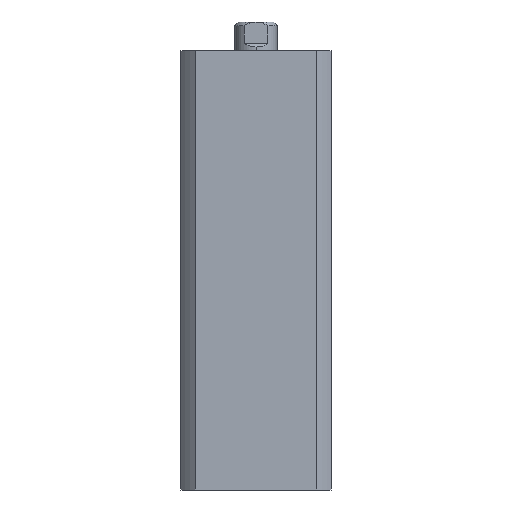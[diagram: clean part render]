
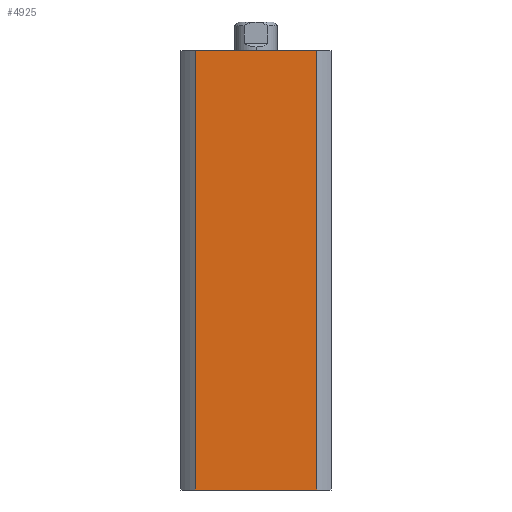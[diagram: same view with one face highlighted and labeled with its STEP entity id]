
A CAD part, left-side view. The second image highlights one B-rep face of the part: STEP entity #4925.
In plain terms, the highlighted planar face has unit normal (-1, 0, 0).
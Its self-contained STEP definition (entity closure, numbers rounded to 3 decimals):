
#70 = LINE ( 'NONE', #3438, #72 ) ;
#72 = VECTOR ( 'NONE', #3434, 1000. ) ;
#110 = LINE ( 'NONE', #3614, #115 ) ;
#115 = VECTOR ( 'NONE', #3608, 1000. ) ;
#126 = LINE ( 'NONE', #3633, #129 ) ;
#128 = LINE ( 'NONE', #3635, #131 ) ;
#129 = VECTOR ( 'NONE', #3634, 1000. ) ;
#131 = VECTOR ( 'NONE', #3636, 1000. ) ;
#394 = AXIS2_PLACEMENT_3D ( 'NONE', #3894, #3904, #3905 ) ;
#1315 = VERTEX_POINT ( 'NONE', #2705 ) ;
#1316 = VERTEX_POINT ( 'NONE', #2703 ) ;
#1319 = VERTEX_POINT ( 'NONE', #2697 ) ;
#1341 = VERTEX_POINT ( 'NONE', #2535 ) ;
#2336 = ORIENTED_EDGE ( 'NONE', *, *, #4629, .F. ) ;
#2337 = ORIENTED_EDGE ( 'NONE', *, *, #4621, .F. ) ;
#2338 = ORIENTED_EDGE ( 'NONE', *, *, #4630, .F. ) ;
#2339 = ORIENTED_EDGE ( 'NONE', *, *, #4583, .T. ) ;
#2383 = EDGE_LOOP ( 'NONE', ( #2336, #2337, #2338, #2339 ) ) ;
#2535 = CARTESIAN_POINT ( 'NONE',  ( -21., -16.971, 123. ) ) ;
#2697 = CARTESIAN_POINT ( 'NONE',  ( -21., -16.971, 0. ) ) ;
#2703 = CARTESIAN_POINT ( 'NONE',  ( -21., 16.971, 0. ) ) ;
#2705 = CARTESIAN_POINT ( 'NONE',  ( -21., 16.971, 123. ) ) ;
#3434 = DIRECTION ( 'NONE',  ( 0., -1., 0. ) ) ;
#3438 = CARTESIAN_POINT ( 'NONE',  ( -21., 21., 0. ) ) ;
#3608 = DIRECTION ( 'NONE',  ( 0., -1., 0. ) ) ;
#3614 = CARTESIAN_POINT ( 'NONE',  ( -21., 21., 123. ) ) ;
#3633 = CARTESIAN_POINT ( 'NONE',  ( -21., -16.971, 123. ) ) ;
#3634 = DIRECTION ( 'NONE',  ( 0., 0., -1. ) ) ;
#3635 = CARTESIAN_POINT ( 'NONE',  ( -21., 16.971, 123. ) ) ;
#3636 = DIRECTION ( 'NONE',  ( 0., 0., 1. ) ) ;
#3894 = CARTESIAN_POINT ( 'NONE',  ( -21., 21., 123. ) ) ;
#3902 = PLANE ( 'NONE',  #394 ) ;
#3904 = DIRECTION ( 'NONE',  ( 1., 0., 0. ) ) ;
#3905 = DIRECTION ( 'NONE',  ( 0., 1., 0. ) ) ;
#4139 = FACE_OUTER_BOUND ( 'NONE', #2383, .T. ) ;
#4583 = EDGE_CURVE ( 'NONE', #1316, #1319, #70, .T. ) ;
#4621 = EDGE_CURVE ( 'NONE', #1315, #1341, #110, .T. ) ;
#4629 = EDGE_CURVE ( 'NONE', #1341, #1319, #126, .T. ) ;
#4630 = EDGE_CURVE ( 'NONE', #1316, #1315, #128, .T. ) ;
#4925 = ADVANCED_FACE ( 'NONE', ( #4139 ), #3902, .F. ) ;
